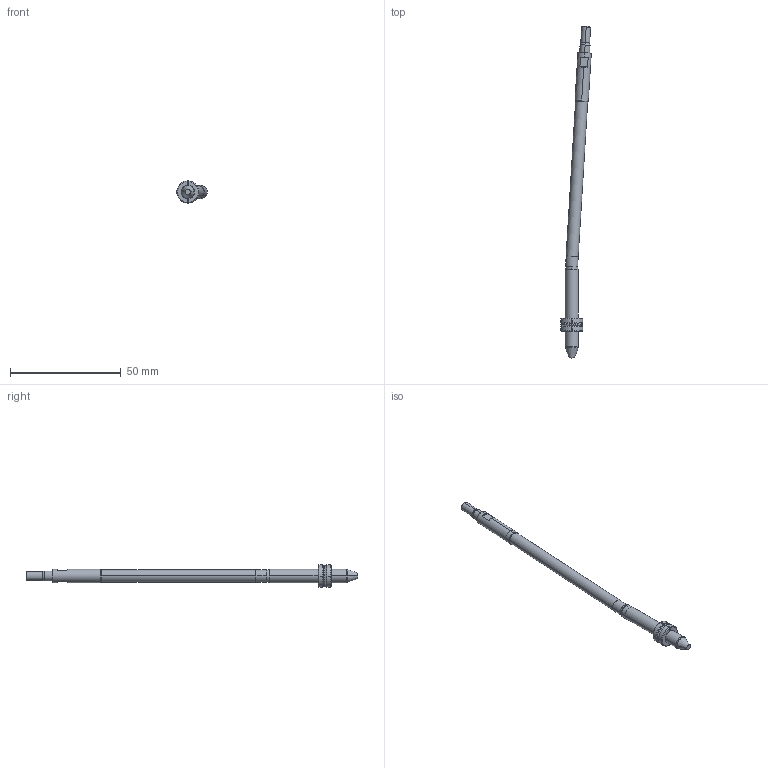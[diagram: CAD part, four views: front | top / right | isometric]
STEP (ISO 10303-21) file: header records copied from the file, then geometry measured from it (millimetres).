
FILE_DESCRIPTION (( 'STEP AP214' ), '1' );
FILE_NAME ('WP060060-EJE 3,5°.STEP', '2021-03-19T15:16:05', ( '' ), ( '' ), 'SwSTEP 2.0', 'SolidWorks 2019', '' );
FILE_SCHEMA (( 'AUTOMOTIVE_DESIGN' ));
Length unit declared in the file: millimetre
Products named in the file (6): WP060060-EJE 3,5°; WEB-006-9WP060030-6; WEB-001-9WP060030-1; WEB-008-JUNTA-JT7X1X9; WEB-002-9WP060030-2; WEB-007-9WP060060-F_WP060060-F-ON 3,5ø
Assembly tree (5 placements, depth 2):
  WP060060-EJE 3,5°
    WEB-001-9WP060030-1
    WEB-007-9WP060060-F_WP060060-F-ON 3,5ø
    WEB-002-9WP060030-2
    WEB-006-9WP060030-6
    WEB-008-JUNTA-JT7X1X9
Bounding box: 13.75 x 149.71 x 9.99 mm (x, y, z)
Volume: 3873.9 mm3; surface area: 3434.3 mm2
Topology: 6 solids, 6 shells, 112 faces, 262 edges, 164 vertices
Faces by surface type: cylinder 36, cone 28, plane 28, torus 20
Entity records: 3723 total; most frequent: CARTESIAN_POINT 714, DIRECTION 598, ORIENTED_EDGE 524, EDGE_CURVE 262, AXIS2_PLACEMENT_3D 256, VERTEX_POINT 164, CIRCLE 136, EDGE_LOOP 116
